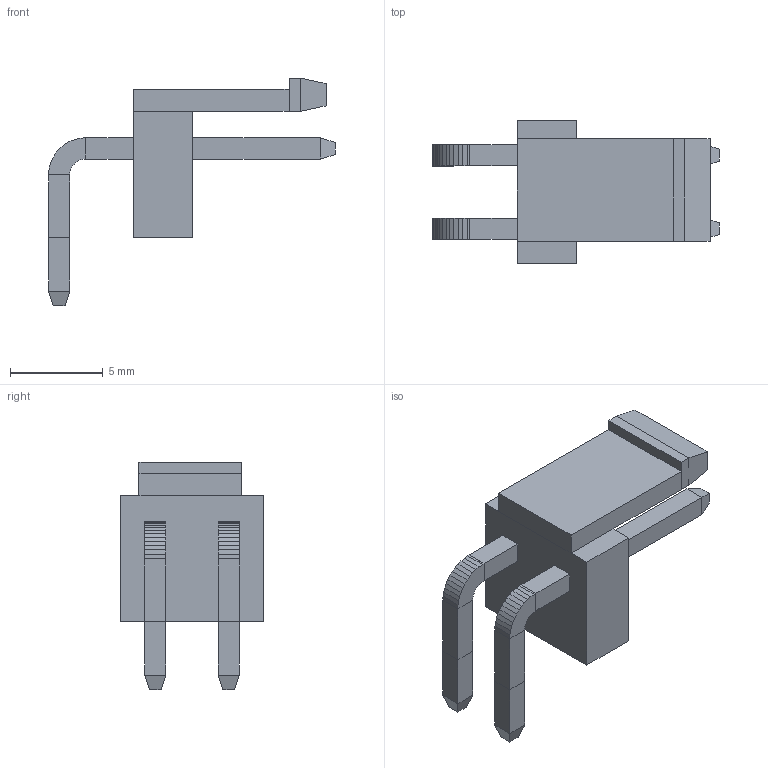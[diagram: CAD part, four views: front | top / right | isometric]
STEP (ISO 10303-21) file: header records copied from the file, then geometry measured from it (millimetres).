
FILE_DESCRIPTION(('FreeCAD Model'),'2;1');
FILE_NAME('Open CASCADE Shape Model','2021-06-28T18:56:58',('Author'),( ''),'Open CASCADE STEP processor 7.5','FreeCAD','Unknown');
FILE_SCHEMA(('AUTOMOTIVE_DESIGN { 1 0 10303 214 1 1 1 1 }'));
Length unit declared in the file: millimetre
Products named in the file (1): Group001
Bounding box: 15.47 x 7.72 x 12.3 mm (x, y, z)
Volume: 290.5 mm3; surface area: 493.2 mm2
Topology: 1 solids, 1 shells, 134 faces, 332 edges, 204 vertices
Faces by surface type: plane 134
Entity records: 8944 total; most frequent: CARTESIAN_POINT 1489, DIRECTION 1112, LINE 842, VECTOR 842, ORIENTED_EDGE 664, PCURVE 664, DEFINITIONAL_REPRESENTATION 664, EDGE_CURVE 332
